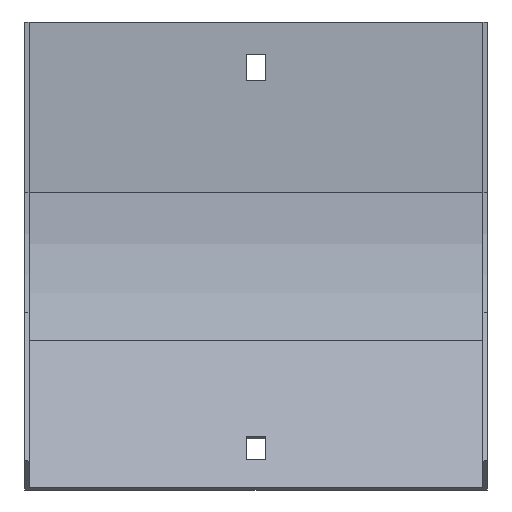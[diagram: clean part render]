
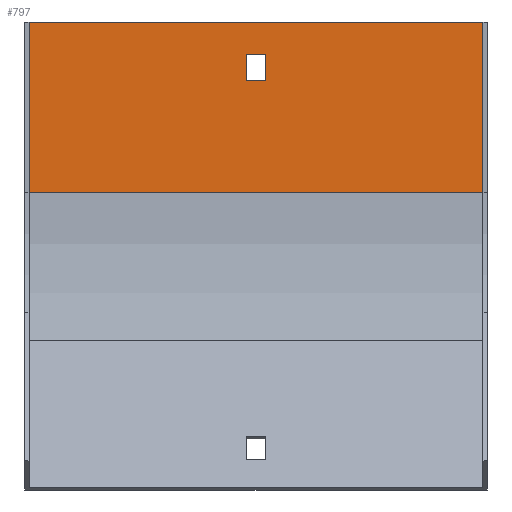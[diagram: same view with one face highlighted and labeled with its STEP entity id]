
A CAD part, front view. The second image highlights one B-rep face of the part: STEP entity #797.
In plain terms, the highlighted planar face has unit normal (0, -1, 0).
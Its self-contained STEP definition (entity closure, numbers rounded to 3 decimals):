
#6 = VECTOR ( 'NONE', #770, 1000. ) ;
#17 = DIRECTION ( 'NONE',  ( 0., 0., -1. ) ) ;
#28 = EDGE_CURVE ( 'NONE', #55, #166, #779, .T. ) ;
#50 = VECTOR ( 'NONE', #149, 1000. ) ;
#55 = VERTEX_POINT ( 'NONE', #640 ) ;
#67 = EDGE_CURVE ( 'NONE', #55, #490, #395, .T. ) ;
#80 = CARTESIAN_POINT ( 'NONE',  ( -3.25, -1.5, 0. ) ) ;
#81 = CARTESIAN_POINT ( 'NONE',  ( 3.25, -1.5, 0. ) ) ;
#104 = EDGE_CURVE ( 'NONE', #652, #550, #206, .T. ) ;
#111 = LINE ( 'NONE', #372, #532 ) ;
#114 = EDGE_CURVE ( 'NONE', #550, #420, #264, .T. ) ;
#129 = ORIENTED_EDGE ( 'NONE', *, *, #620, .T. ) ;
#134 = DIRECTION ( 'NONE',  ( -1., 0., 0. ) ) ;
#144 = LINE ( 'NONE', #81, #148 ) ;
#148 = VECTOR ( 'NONE', #276, 1000. ) ;
#149 = DIRECTION ( 'NONE',  ( -1., 0., 0. ) ) ;
#166 = VERTEX_POINT ( 'NONE', #463 ) ;
#172 = VECTOR ( 'NONE', #320, 1000. ) ;
#202 = DIRECTION ( 'NONE',  ( 0., 0., 1. ) ) ;
#206 = LINE ( 'NONE', #658, #428 ) ;
#264 = LINE ( 'NONE', #80, #589 ) ;
#272 = CARTESIAN_POINT ( 'NONE',  ( -3.25, -1.5, -11. ) ) ;
#276 = DIRECTION ( 'NONE',  ( 0., 0., 1. ) ) ;
#289 = ORIENTED_EDGE ( 'NONE', *, *, #104, .F. ) ;
#320 = DIRECTION ( 'NONE',  ( 0., 0., 1. ) ) ;
#339 = PLANE ( 'NONE',  #546 ) ;
#372 = CARTESIAN_POINT ( 'NONE',  ( 78.5, -1.5, -20. ) ) ;
#379 = ORIENTED_EDGE ( 'NONE', *, *, #114, .F. ) ;
#393 = CARTESIAN_POINT ( 'NONE',  ( 3.25, -1.5, -20. ) ) ;
#395 = LINE ( 'NONE', #718, #172 ) ;
#420 = VERTEX_POINT ( 'NONE', #510 ) ;
#425 = FACE_BOUND ( 'NONE', #731, .T. ) ;
#428 = VECTOR ( 'NONE', #134, 1000. ) ;
#438 = CARTESIAN_POINT ( 'NONE',  ( 77., -1.5, 0. ) ) ;
#450 = DIRECTION ( 'NONE',  ( 0., 0., -1. ) ) ;
#462 = ORIENTED_EDGE ( 'NONE', *, *, #575, .F. ) ;
#463 = CARTESIAN_POINT ( 'NONE',  ( -77., -1.5, -57.9 ) ) ;
#464 = LINE ( 'NONE', #605, #817 ) ;
#470 = CARTESIAN_POINT ( 'NONE',  ( 78.5, -1.5, 0. ) ) ;
#485 = EDGE_CURVE ( 'NONE', #420, #636, #111, .T. ) ;
#490 = VERTEX_POINT ( 'NONE', #438 ) ;
#493 = EDGE_LOOP ( 'NONE', ( #816, #657, #632, #129 ) ) ;
#510 = CARTESIAN_POINT ( 'NONE',  ( -3.25, -1.5, -20. ) ) ;
#529 = ORIENTED_EDGE ( 'NONE', *, *, #485, .F. ) ;
#532 = VECTOR ( 'NONE', #844, 1000. ) ;
#546 = AXIS2_PLACEMENT_3D ( 'NONE', #610, #615, #17 ) ;
#550 = VERTEX_POINT ( 'NONE', #272 ) ;
#566 = EDGE_CURVE ( 'NONE', #166, #798, #464, .T. ) ;
#567 = CARTESIAN_POINT ( 'NONE',  ( 78.5, -1.5, -57.9 ) ) ;
#575 = EDGE_CURVE ( 'NONE', #636, #652, #144, .T. ) ;
#589 = VECTOR ( 'NONE', #450, 1000. ) ;
#605 = CARTESIAN_POINT ( 'NONE',  ( -77., -1.5, -57.9 ) ) ;
#610 = CARTESIAN_POINT ( 'NONE',  ( 78.5, -1.5, 0. ) ) ;
#615 = DIRECTION ( 'NONE',  ( 0., -1., 0. ) ) ;
#620 = EDGE_CURVE ( 'NONE', #490, #798, #662, .T. ) ;
#632 = ORIENTED_EDGE ( 'NONE', *, *, #67, .T. ) ;
#636 = VERTEX_POINT ( 'NONE', #393 ) ;
#640 = CARTESIAN_POINT ( 'NONE',  ( 77., -1.5, -57.9 ) ) ;
#652 = VERTEX_POINT ( 'NONE', #671 ) ;
#657 = ORIENTED_EDGE ( 'NONE', *, *, #28, .F. ) ;
#658 = CARTESIAN_POINT ( 'NONE',  ( 78.5, -1.5, -11. ) ) ;
#662 = LINE ( 'NONE', #470, #50 ) ;
#671 = CARTESIAN_POINT ( 'NONE',  ( 3.25, -1.5, -11. ) ) ;
#689 = FACE_OUTER_BOUND ( 'NONE', #493, .T. ) ;
#708 = CARTESIAN_POINT ( 'NONE',  ( -77., -1.5, 0. ) ) ;
#718 = CARTESIAN_POINT ( 'NONE',  ( 77., -1.5, -57.9 ) ) ;
#731 = EDGE_LOOP ( 'NONE', ( #379, #289, #462, #529 ) ) ;
#770 = DIRECTION ( 'NONE',  ( -1., 0., 0. ) ) ;
#779 = LINE ( 'NONE', #567, #6 ) ;
#797 = ADVANCED_FACE ( 'NONE', ( #425, #689 ), #339, .T. ) ;
#798 = VERTEX_POINT ( 'NONE', #708 ) ;
#816 = ORIENTED_EDGE ( 'NONE', *, *, #566, .F. ) ;
#817 = VECTOR ( 'NONE', #202, 1000. ) ;
#844 = DIRECTION ( 'NONE',  ( 1., 0., 0. ) ) ;
